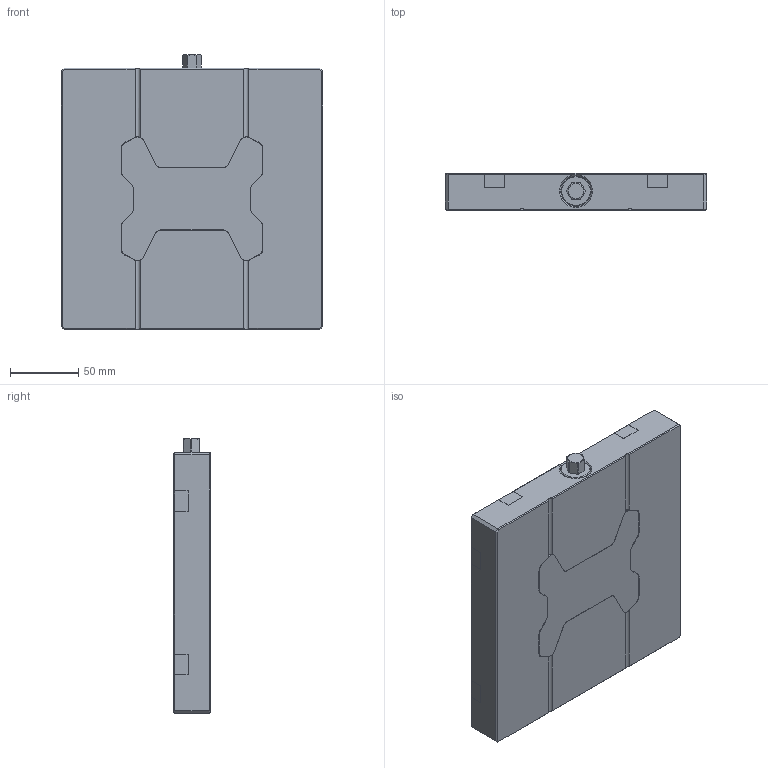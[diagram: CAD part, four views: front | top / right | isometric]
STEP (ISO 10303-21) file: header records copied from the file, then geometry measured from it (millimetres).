
FILE_DESCRIPTION (( 'STEP AP214' ), '1' );
FILE_NAME ('85710.STEP', '2021-10-04T06:05:19', ( '' ), ( '' ), 'SwSTEP 2.0', 'SolidWorks 2019', '' );
FILE_SCHEMA (( 'AUTOMOTIVE_DESIGN' ));
Length unit declared in the file: millimetre
Products named in the file (1): 85710
Bounding box: 192 x 27 x 202 mm (x, y, z)
Volume: 892096.2 mm3; surface area: 148455.8 mm2
Topology: 12 solids, 13 shells, 465 faces, 1170 edges, 744 vertices
Faces by surface type: plane 248, cylinder 149, cone 60, torus 8
Entity records: 19238 total; most frequent: CARTESIAN_POINT 2522, DIRECTION 2478, ORIENTED_EDGE 2340, EDGE_CURVE 1170, AXIS2_PLACEMENT_3D 864, VECTOR 750, LINE 750, VERTEX_POINT 744
